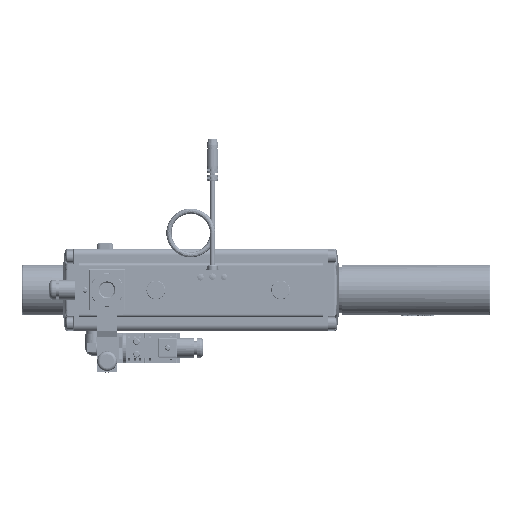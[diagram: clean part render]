
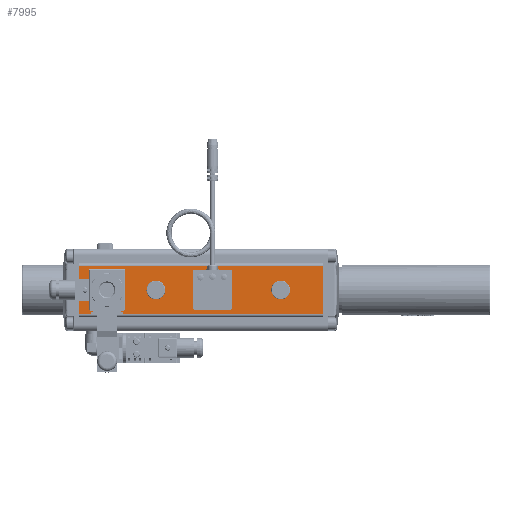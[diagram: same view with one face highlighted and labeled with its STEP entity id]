
A CAD part, top view. The second image highlights one B-rep face of the part: STEP entity #7995.
In plain terms, the highlighted planar face has unit normal (0, 0, 1).
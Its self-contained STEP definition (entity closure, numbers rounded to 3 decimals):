
#7995 = ADVANCED_FACE( '', ( #17254, #17255, #17256, #17257, #17258 ), #17259, .F. );
#17254 = FACE_OUTER_BOUND( '', #29566, .T. );
#17255 = FACE_BOUND( '', #29567, .T. );
#17256 = FACE_BOUND( '', #29568, .T. );
#17257 = FACE_BOUND( '', #29569, .T. );
#17258 = FACE_BOUND( '', #29570, .T. );
#17259 = PLANE( '', #29571 );
#29566 = EDGE_LOOP( '', ( #53979, #53980, #53981, #53982 ) );
#29567 = EDGE_LOOP( '', ( #53983, #53984 ) );
#29568 = EDGE_LOOP( '', ( #53985 ) );
#29569 = EDGE_LOOP( '', ( #53986 ) );
#29570 = EDGE_LOOP( '', ( #53987 ) );
#29571 = AXIS2_PLACEMENT_3D( '', #53988, #53989, #53990 );
#53979 = ORIENTED_EDGE( '', *, *, #62638, .T. );
#53980 = ORIENTED_EDGE( '', *, *, #65848, .T. );
#53981 = ORIENTED_EDGE( '', *, *, #65506, .F. );
#53982 = ORIENTED_EDGE( '', *, *, #63072, .F. );
#53983 = ORIENTED_EDGE( '', *, *, #70074, .T. );
#53984 = ORIENTED_EDGE( '', *, *, #70075, .T. );
#53985 = ORIENTED_EDGE( '', *, *, #69914, .F. );
#53986 = ORIENTED_EDGE( '', *, *, #68677, .F. );
#53987 = ORIENTED_EDGE( '', *, *, #64232, .F. );
#53988 = CARTESIAN_POINT( '', ( 169.5, -19., 35.875 ) );
#53989 = DIRECTION( '', ( 0., 0., -1. ) );
#53990 = DIRECTION( '', ( 0., -1., 0. ) );
#62638 = EDGE_CURVE( '', #74848, #74846, #74849, .T. );
#63072 = EDGE_CURVE( '', #74848, #75584, #75585, .T. );
#64232 = EDGE_CURVE( '', #77538, #77538, #77539, .T. );
#65506 = EDGE_CURVE( '', #75584, #79531, #79532, .T. );
#65848 = EDGE_CURVE( '', #74846, #79531, #80045, .T. );
#68677 = EDGE_CURVE( '', #84002, #84002, #84003, .T. );
#69914 = EDGE_CURVE( '', #85509, #85509, #85510, .T. );
#70074 = EDGE_CURVE( '', #82825, #82827, #85697, .T. );
#70075 = EDGE_CURVE( '', #82827, #82825, #85698, .T. );
#74846 = VERTEX_POINT( '', #92722 );
#74848 = VERTEX_POINT( '', #92724 );
#74849 = LINE( '', #92725, #92726 );
#75584 = VERTEX_POINT( '', #93777 );
#75585 = LINE( '', #93778, #93779 );
#77538 = VERTEX_POINT( '', #97086 );
#77539 = CIRCLE( '', #97087, 5.723 );
#79531 = VERTEX_POINT( '', #100151 );
#79532 = LINE( '', #100152, #100153 );
#80045 = LINE( '', #101470, #101471 );
#82825 = VERTEX_POINT( '', #105980 );
#82827 = VERTEX_POINT( '', #105982 );
#84002 = VERTEX_POINT( '', #108173 );
#84003 = CIRCLE( '', #108174, 7.3 );
#85509 = VERTEX_POINT( '', #110537 );
#85510 = CIRCLE( '', #110538, 7.3 );
#85697 = ELLIPSE( '', #110807, 4.864, 4.864 );
#85698 = ELLIPSE( '', #110808, 4.864, 4.864 );
#92722 = CARTESIAN_POINT( '', ( -20.5, 19., 35.875 ) );
#92724 = CARTESIAN_POINT( '', ( 169.5, 19., 35.875 ) );
#92725 = CARTESIAN_POINT( '', ( 169.5, 19., 35.875 ) );
#92726 = VECTOR( '', #114930, 1000. );
#93777 = CARTESIAN_POINT( '', ( 169.5, -19., 35.875 ) );
#93778 = CARTESIAN_POINT( '', ( 169.5, -27., 35.875 ) );
#93779 = VECTOR( '', #115483, 1000. );
#97086 = CARTESIAN_POINT( '', ( 1.5, 5.723, 35.875 ) );
#97087 = AXIS2_PLACEMENT_3D( '', #116851, #116852, #116853 );
#100151 = CARTESIAN_POINT( '', ( -20.5, -19., 35.875 ) );
#100152 = CARTESIAN_POINT( '', ( 169.5, -19., 35.875 ) );
#100153 = VECTOR( '', #118316, 1000. );
#101470 = CARTESIAN_POINT( '', ( -20.5, -19., 35.875 ) );
#101471 = VECTOR( '', #118688, 1000. );
#105980 = CARTESIAN_POINT( '', ( 88.364, 0.223, 35.875 ) );
#105982 = CARTESIAN_POINT( '', ( 78.636, 0.223, 35.875 ) );
#108173 = CARTESIAN_POINT( '', ( 39.5, 7.3, 35.875 ) );
#108174 = AXIS2_PLACEMENT_3D( '', #121719, #121720, #121721 );
#110537 = CARTESIAN_POINT( '', ( 136.5, 7.3, 35.875 ) );
#110538 = AXIS2_PLACEMENT_3D( '', #122786, #122787, #122788 );
#110807 = AXIS2_PLACEMENT_3D( '', #122924, #122925, #122926 );
#110808 = AXIS2_PLACEMENT_3D( '', #122927, #122928, #122929 );
#114930 = DIRECTION( '', ( -1., 0., 0. ) );
#115483 = DIRECTION( '', ( 0., -1., 0. ) );
#116851 = CARTESIAN_POINT( '', ( 1.5, 0., 35.875 ) );
#116852 = DIRECTION( '', ( 0., 0., 1. ) );
#116853 = DIRECTION( '', ( 0., 1., 0. ) );
#118316 = DIRECTION( '', ( -1., 0., 0. ) );
#118688 = DIRECTION( '', ( 0., -1., 0. ) );
#121719 = CARTESIAN_POINT( '', ( 39.5, 0., 35.875 ) );
#121720 = DIRECTION( '', ( 0., 0., 1. ) );
#121721 = DIRECTION( '', ( 0., 1., 0. ) );
#122786 = CARTESIAN_POINT( '', ( 136.5, 0., 35.875 ) );
#122787 = DIRECTION( '', ( 0., 0., 1. ) );
#122788 = DIRECTION( '', ( 0., 1., 0. ) );
#122924 = CARTESIAN_POINT( '', ( 83.5, 0.223, 35.875 ) );
#122925 = DIRECTION( '', ( 0., 0., -1. ) );
#122926 = DIRECTION( '', ( 0., 1., 0. ) );
#122927 = CARTESIAN_POINT( '', ( 83.5, 0.223, 35.875 ) );
#122928 = DIRECTION( '', ( 0., 0., -1. ) );
#122929 = DIRECTION( '', ( 0., 1., 0. ) );
